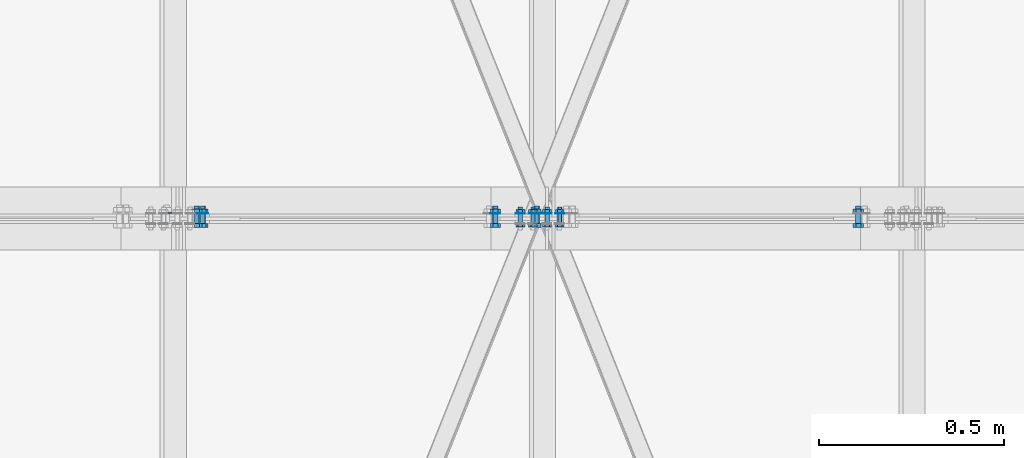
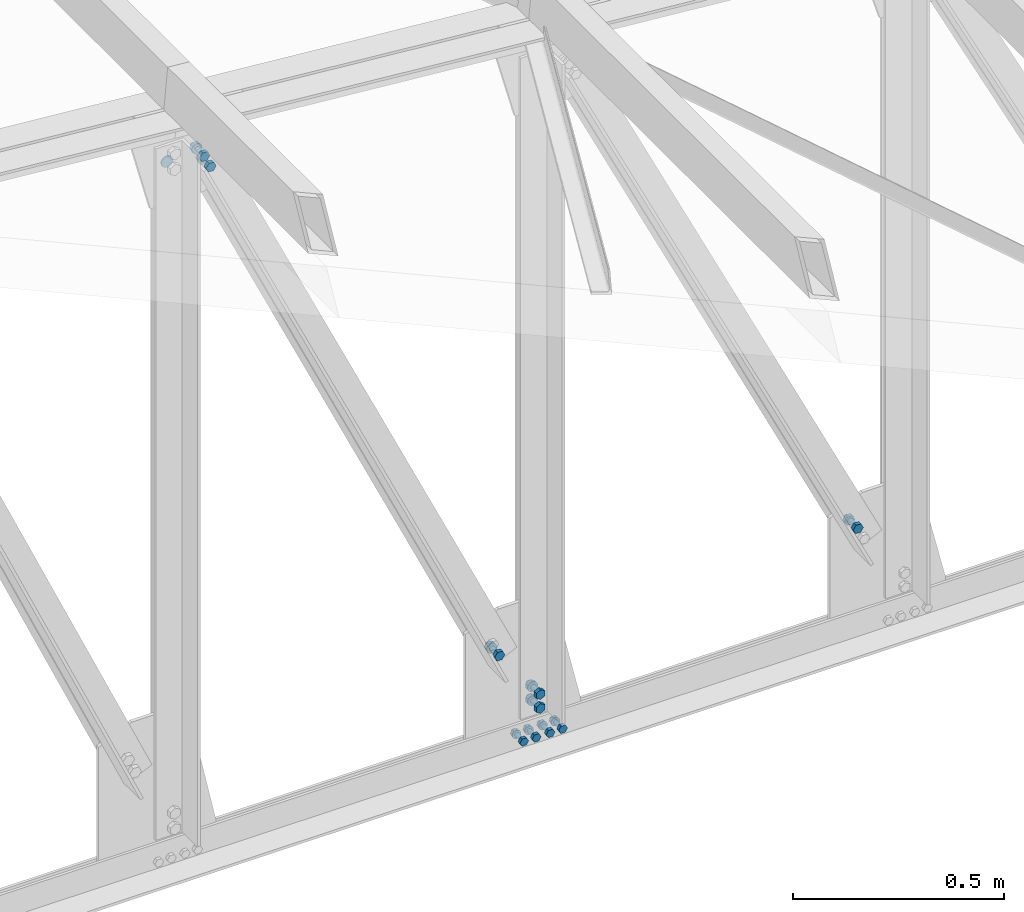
# One storey, part 76 of 251: 40 mechanical fasteners.
"""IFC4 building model written with IfcOpenShell, lengths in metres."""

from ifc_helpers import new_model, si_unit, frame, origin_with_axes, place, context, project, spatial, polyline, outline, extrude, type_object, element, save


model = new_model("IFC4")

# Units and contexts
model_context = context("Model", 3, precision=1e-05, world=origin_with_axes())
ifc_project = project(units=[si_unit("LENGTHUNIT", "METRE"), si_unit("AREAUNIT", "SQUARE_METRE"), si_unit("VOLUMEUNIT", "CUBIC_METRE"), si_unit("MASSUNIT", "GRAM", prefix="KILO"), si_unit("TIMEUNIT", "SECOND"), si_unit("PLANEANGLEUNIT", "RADIAN"), si_unit("SOLIDANGLEUNIT", "STERADIAN"), si_unit("THERMODYNAMICTEMPERATUREUNIT", "DEGREE_CELSIUS")], contexts=[model_context])

# Site, building, storey
placement_1 = place(None, origin_with_axes())
site = spatial("IfcSite", under=ifc_project, at=placement_1, Name="Italia", CompositionType="ELEMENT")
building = spatial("IfcBuilding", under=site, at=placement_1, Name="Deposito", CompositionType="ELEMENT")
storey = spatial("IfcBuildingStorey", under=building, at=placement_1, Name="Storey 0", CompositionType="ELEMENT", Elevation=0.0)

# Mechanical fasteners
mechanical_fastener_type_1 = type_object("IfcMechanicalFastenerType", Name="Reticolare 3", PredefinedType="BOLT")
placement_2 = place(placement_1, origin_with_axes())
mechanical_fastener_1_placement = place(placement_2, origin_with_axes())
element("IfcMechanicalFastener", 1, at=mechanical_fastener_1_placement, inside=storey, type_object=mechanical_fastener_type_1, Name="Reticolare 3", NominalDiameter=0.0119997, context=model_context, shape_type="SweptSolid", body=[
    extrude(outline(polyline([(0.0, 0.0), (-0.0120001, 0.0), (-0.0179996, 0.0103922), (-0.0120001, 0.0207844), (0.0, 0.0207844), (0.00600052, 0.0103922), (0.0, 0.0)])), frame((8.07066, 4.987, 4.99661), z_axis=(0.0, -1.0, 0.0), x_axis=(1.0, 0.0, 0.0)), (0.0, 0.0, 1.0), 0.00960016),
])
mechanical_fastener_type_2 = type_object("IfcMechanicalFastenerType", Name="Reticolare 3", PredefinedType="BOLT")
mechanical_fastener_2_placement = place(placement_2, origin_with_axes())
element("IfcMechanicalFastener", 2, at=mechanical_fastener_2_placement, inside=storey, type_object=mechanical_fastener_type_2, Name="Reticolare 3", NominalDiameter=0.012, context=model_context, shape_type="SweptSolid", body=[
    extrude(outline(polyline([(0.0, 0.0), (-0.000204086, -0.00155306), (-0.000802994, -0.00299978), (-0.00175667, -0.00424242), (-0.00299931, -0.00519609), (-0.00444698, -0.00579548), (-0.00599957, -0.00600004), (-0.00755215, -0.00579548), (-0.00899982, -0.00519609), (-0.0102425, -0.00424242), (-0.0111961, -0.00299978), (-0.011795, -0.00155306), (-0.0119991, 0.0), (-0.011795, 0.00155306), (-0.0111961, 0.00299978), (-0.0102425, 0.00424242), (-0.00899982, 0.00519609), (-0.00755215, 0.00579548), (-0.00599957, 0.00600004), (-0.00444698, 0.00579548), (-0.00299931, 0.00519609), (-0.00175667, 0.00424242), (-0.000802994, 0.00299978), (-0.000204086, 0.00155306), (0.0, 0.0)])), frame((8.07066, 5.031, 5.007), z_axis=(0.0, -1.0, 0.0), x_axis=(1.0, 0.0, 0.0)), (0.0, 0.0, 1.0), 0.0440001),
])
mechanical_fastener_type_3 = type_object("IfcMechanicalFastenerType", Name="Reticolare 3", PredefinedType="BOLT")
mechanical_fastener_3_placement = place(placement_2, origin_with_axes())
element("IfcMechanicalFastener", 3, at=mechanical_fastener_3_placement, inside=storey, type_object=mechanical_fastener_type_3, Name="Reticolare 3", NominalDiameter=0.0119997, context=model_context, shape_type="SweptSolid", body=[
    extrude(outline(polyline([(0.0, 0.0), (-0.0120001, 0.0), (-0.0179996, 0.0103922), (-0.0120001, 0.0207844), (0.0, 0.0207844), (0.00600052, 0.0103922), (0.0, 0.0)])), frame((8.07066, 5.0246, 4.99661), z_axis=(0.0, -1.0, 0.0), x_axis=(1.0, 0.0, 0.0)), (0.0, 0.0, 1.0), 0.00960016),
])
mechanical_fastener_type_4 = type_object("IfcMechanicalFastenerType", Name="Reticolare 3", PredefinedType="BOLT")
mechanical_fastener_4_placement = place(placement_2, origin_with_axes())
element("IfcMechanicalFastener", 4, at=mechanical_fastener_4_placement, inside=storey, type_object=mechanical_fastener_type_4, Name="Reticolare 3", NominalDiameter=0.024, context=model_context, shape_type="SweptSolid", body=[
    extrude(outline(polyline([(0.0, 0.0), (-0.000409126, -0.00310564), (-0.00160789, -0.00600004), (-0.00351524, -0.00848532), (-0.00600052, -0.0103922), (-0.00889397, -0.011591), (-0.0120001, -0.0120001), (-0.0151062, -0.011591), (-0.0179996, -0.0103922), (-0.0204849, -0.00848532), (-0.0223923, -0.00600004), (-0.023591, -0.00310564), (-0.0240002, 0.0), (-0.023591, 0.00310564), (-0.0223923, 0.00600004), (-0.0204849, 0.00848532), (-0.0179996, 0.0103922), (-0.0151062, 0.011591), (-0.0120001, 0.0120001), (-0.00889397, 0.011591), (-0.00600052, 0.0103922), (-0.00351524, 0.00848532), (-0.00160789, 0.00600004), (-0.000409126, 0.00310564), (0.0, 0.0)])), frame((8.07666, 5.015, 5.007), z_axis=(0.0, -1.0, 0.0), x_axis=(1.0, 0.0, 0.0)), (0.0, 0.0, 1.0), 0.00199986),
])
mechanical_fastener_type_5 = type_object("IfcMechanicalFastenerType", Name="Reticolare 3", PredefinedType="BOLT")
mechanical_fastener_5_placement = place(placement_2, origin_with_axes())
element("IfcMechanicalFastener", 5, at=mechanical_fastener_5_placement, inside=storey, type_object=mechanical_fastener_type_5, Name="Reticolare 3", NominalDiameter=0.0119997, context=model_context, shape_type="SweptSolid", body=[
    extrude(outline(polyline([(0.0, 0.0), (-0.0120001, 0.0), (-0.0179996, 0.0103922), (-0.0120001, 0.0207844), (0.0, 0.0207844), (0.00599957, 0.0103922), (0.0, 0.0)])), frame((8.10466, 4.987, 4.99661), z_axis=(0.0, -1.0, 0.0), x_axis=(1.0, 0.0, 0.0)), (0.0, 0.0, 1.0), 0.00960016),
])
mechanical_fastener_type_6 = type_object("IfcMechanicalFastenerType", Name="Reticolare 3", PredefinedType="BOLT")
mechanical_fastener_6_placement = place(placement_2, origin_with_axes())
element("IfcMechanicalFastener", 6, at=mechanical_fastener_6_placement, inside=storey, type_object=mechanical_fastener_type_6, Name="Reticolare 3", NominalDiameter=0.012, context=model_context, shape_type="SweptSolid", body=[
    extrude(outline(polyline([(0.0, 0.0), (-0.000204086, -0.00155306), (-0.000802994, -0.00299978), (-0.00175667, -0.00424242), (-0.00299931, -0.00519609), (-0.00444698, -0.00579548), (-0.00599957, -0.00600004), (-0.00755215, -0.00579548), (-0.00899982, -0.00519609), (-0.0102425, -0.00424242), (-0.0111961, -0.00299978), (-0.011795, -0.00155306), (-0.0119991, 0.0), (-0.011795, 0.00155306), (-0.0111961, 0.00299978), (-0.0102425, 0.00424242), (-0.00899982, 0.00519609), (-0.00755215, 0.00579548), (-0.00599957, 0.00600004), (-0.00444698, 0.00579548), (-0.00299931, 0.00519609), (-0.00175667, 0.00424242), (-0.000802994, 0.00299978), (-0.000204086, 0.00155306), (0.0, 0.0)])), frame((8.10466, 5.031, 5.007), z_axis=(0.0, -1.0, 0.0), x_axis=(1.0, 0.0, 0.0)), (0.0, 0.0, 1.0), 0.0440001),
])
mechanical_fastener_type_7 = type_object("IfcMechanicalFastenerType", Name="Reticolare 3", PredefinedType="BOLT")
mechanical_fastener_7_placement = place(placement_2, origin_with_axes())
element("IfcMechanicalFastener", 7, at=mechanical_fastener_7_placement, inside=storey, type_object=mechanical_fastener_type_7, Name="Reticolare 3", NominalDiameter=0.0119997, context=model_context, shape_type="SweptSolid", body=[
    extrude(outline(polyline([(0.0, 0.0), (-0.0120001, 0.0), (-0.0179996, 0.0103922), (-0.0120001, 0.0207844), (0.0, 0.0207844), (0.00599957, 0.0103922), (0.0, 0.0)])), frame((8.10466, 5.0246, 4.99661), z_axis=(0.0, -1.0, 0.0), x_axis=(1.0, 0.0, 0.0)), (0.0, 0.0, 1.0), 0.00960016),
])
mechanical_fastener_type_8 = type_object("IfcMechanicalFastenerType", Name="Reticolare 3", PredefinedType="BOLT")
mechanical_fastener_8_placement = place(placement_2, origin_with_axes())
element("IfcMechanicalFastener", 8, at=mechanical_fastener_8_placement, inside=storey, type_object=mechanical_fastener_type_8, Name="Reticolare 3", NominalDiameter=0.024, context=model_context, shape_type="SweptSolid", body=[
    extrude(outline(polyline([(0.0, 0.0), (-0.000409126, -0.00310564), (-0.00160789, -0.00600004), (-0.00351524, -0.00848532), (-0.00600052, -0.0103922), (-0.00889397, -0.011591), (-0.0120001, -0.0120001), (-0.0151062, -0.011591), (-0.0179996, -0.0103922), (-0.0204849, -0.00848532), (-0.0223923, -0.00600004), (-0.023591, -0.00310564), (-0.0240002, 0.0), (-0.023591, 0.00310564), (-0.0223923, 0.00600004), (-0.0204849, 0.00848532), (-0.0179996, 0.0103922), (-0.0151062, 0.011591), (-0.0120001, 0.0120001), (-0.00889397, 0.011591), (-0.00600052, 0.0103922), (-0.00351524, 0.00848532), (-0.00160789, 0.00600004), (-0.000409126, 0.00310564), (0.0, 0.0)])), frame((8.11066, 5.015, 5.007), z_axis=(0.0, -1.0, 0.0), x_axis=(1.0, 0.0, 0.0)), (0.0, 0.0, 1.0), 0.00199986),
])
mechanical_fastener_type_9 = type_object("IfcMechanicalFastenerType", Name="Reticolare 3", PredefinedType="BOLT")
mechanical_fastener_9_placement = place(placement_2, origin_with_axes())
element("IfcMechanicalFastener", 9, at=mechanical_fastener_9_placement, inside=storey, type_object=mechanical_fastener_type_9, Name="Reticolare 3", NominalDiameter=0.0119997, context=model_context, shape_type="SweptSolid", body=[
    extrude(outline(polyline([(0.0, 0.0), (-0.0120001, 0.0), (-0.0180006, 0.0103922), (-0.0120001, 0.0207844), (0.0, 0.0207844), (0.00599957, 0.0103922), (0.0, 0.0)])), frame((8.03266, 4.987, 4.99661), z_axis=(0.0, -1.0, 0.0), x_axis=(1.0, 0.0, 0.0)), (0.0, 0.0, 1.0), 0.00960016),
])
mechanical_fastener_type_10 = type_object("IfcMechanicalFastenerType", Name="Reticolare 3", PredefinedType="BOLT")
mechanical_fastener_10_placement = place(placement_2, origin_with_axes())
element("IfcMechanicalFastener", 10, at=mechanical_fastener_10_placement, inside=storey, type_object=mechanical_fastener_type_10, Name="Reticolare 3", NominalDiameter=0.012, context=model_context, shape_type="SweptSolid", body=[
    extrude(outline(polyline([(0.0, 0.0), (-0.000204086, -0.00155306), (-0.000802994, -0.00299978), (-0.00175667, -0.00424242), (-0.00299931, -0.00519609), (-0.00444698, -0.00579548), (-0.00599957, -0.00600004), (-0.00755215, -0.00579548), (-0.00899982, -0.00519609), (-0.0102425, -0.00424242), (-0.0111961, -0.00299978), (-0.011795, -0.00155306), (-0.0119991, 0.0), (-0.011795, 0.00155306), (-0.0111961, 0.00299978), (-0.0102425, 0.00424242), (-0.00899982, 0.00519609), (-0.00755215, 0.00579548), (-0.00599957, 0.00600004), (-0.00444698, 0.00579548), (-0.00299931, 0.00519609), (-0.00175667, 0.00424242), (-0.000802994, 0.00299978), (-0.000204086, 0.00155306), (0.0, 0.0)])), frame((8.03266, 5.031, 5.007), z_axis=(0.0, -1.0, 0.0), x_axis=(1.0, 0.0, 0.0)), (0.0, 0.0, 1.0), 0.0440001),
])
mechanical_fastener_type_11 = type_object("IfcMechanicalFastenerType", Name="Reticolare 3", PredefinedType="BOLT")
mechanical_fastener_11_placement = place(placement_2, origin_with_axes())
element("IfcMechanicalFastener", 11, at=mechanical_fastener_11_placement, inside=storey, type_object=mechanical_fastener_type_11, Name="Reticolare 3", NominalDiameter=0.0119997, context=model_context, shape_type="SweptSolid", body=[
    extrude(outline(polyline([(0.0, 0.0), (-0.0120001, 0.0), (-0.0180006, 0.0103922), (-0.0120001, 0.0207844), (0.0, 0.0207844), (0.00599957, 0.0103922), (0.0, 0.0)])), frame((8.03266, 5.0246, 4.99661), z_axis=(0.0, -1.0, 0.0), x_axis=(1.0, 0.0, 0.0)), (0.0, 0.0, 1.0), 0.00960016),
])
mechanical_fastener_type_12 = type_object("IfcMechanicalFastenerType", Name="Reticolare 3", PredefinedType="BOLT")
mechanical_fastener_12_placement = place(placement_2, origin_with_axes())
element("IfcMechanicalFastener", 12, at=mechanical_fastener_12_placement, inside=storey, type_object=mechanical_fastener_type_12, Name="Reticolare 3", NominalDiameter=0.024, context=model_context, shape_type="SweptSolid", body=[
    extrude(outline(polyline([(0.0, 0.0), (-0.000409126, -0.00310564), (-0.00160789, -0.00600004), (-0.00351524, -0.00848532), (-0.00600052, -0.0103922), (-0.00889397, -0.011591), (-0.0120001, -0.0120001), (-0.0151062, -0.011591), (-0.0179996, -0.0103922), (-0.0204849, -0.00848532), (-0.0223923, -0.00600004), (-0.023591, -0.00310564), (-0.0240002, 0.0), (-0.023591, 0.00310564), (-0.0223923, 0.00600004), (-0.0204849, 0.00848532), (-0.0179996, 0.0103922), (-0.0151062, 0.011591), (-0.0120001, 0.0120001), (-0.00889397, 0.011591), (-0.00600052, 0.0103922), (-0.00351524, 0.00848532), (-0.00160789, 0.00600004), (-0.000409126, 0.00310564), (0.0, 0.0)])), frame((8.03866, 5.015, 5.007), z_axis=(0.0, -1.0, 0.0), x_axis=(1.0, 0.0, 0.0)), (0.0, 0.0, 1.0), 0.00199986),
])
mechanical_fastener_type_13 = type_object("IfcMechanicalFastenerType", Name="Reticolare 3", PredefinedType="BOLT")
mechanical_fastener_13_placement = place(placement_2, origin_with_axes())
element("IfcMechanicalFastener", 13, at=mechanical_fastener_13_placement, inside=storey, type_object=mechanical_fastener_type_13, Name="Reticolare 3", NominalDiameter=0.0119997, context=model_context, shape_type="SweptSolid", body=[
    extrude(outline(polyline([(0.0, 0.0), (-0.0120001, 0.0), (-0.0180001, 0.0103922), (-0.0120001, 0.0207844), (0.0, 0.0207844), (0.00599957, 0.0103922), (0.0, 0.0)])), frame((7.99866, 4.987, 4.99661), z_axis=(0.0, -1.0, 0.0), x_axis=(1.0, 0.0, 0.0)), (0.0, 0.0, 1.0), 0.00960016),
])
mechanical_fastener_type_14 = type_object("IfcMechanicalFastenerType", Name="Reticolare 3", PredefinedType="BOLT")
mechanical_fastener_14_placement = place(placement_2, origin_with_axes())
element("IfcMechanicalFastener", 14, at=mechanical_fastener_14_placement, inside=storey, type_object=mechanical_fastener_type_14, Name="Reticolare 3", NominalDiameter=0.012, context=model_context, shape_type="SweptSolid", body=[
    extrude(outline(polyline([(0.0, 0.0), (-0.000204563, -0.00155306), (-0.000803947, -0.00299978), (-0.00175762, -0.00424242), (-0.00300026, -0.00519609), (-0.00444698, -0.00579548), (-0.00600004, -0.00600004), (-0.0075531, -0.00579548), (-0.00899982, -0.00519609), (-0.0102425, -0.00424242), (-0.0111961, -0.00299978), (-0.0117955, -0.00155306), (-0.0120001, 0.0), (-0.0117955, 0.00155306), (-0.0111961, 0.00299978), (-0.0102425, 0.00424242), (-0.00899982, 0.00519609), (-0.0075531, 0.00579548), (-0.00600004, 0.00600004), (-0.00444698, 0.00579548), (-0.00300026, 0.00519609), (-0.00175762, 0.00424242), (-0.000803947, 0.00299978), (-0.000204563, 0.00155306), (0.0, 0.0)])), frame((7.99866, 5.031, 5.007), z_axis=(0.0, -1.0, 0.0), x_axis=(1.0, 0.0, 0.0)), (0.0, 0.0, 1.0), 0.0440001),
])
mechanical_fastener_type_15 = type_object("IfcMechanicalFastenerType", Name="Reticolare 3", PredefinedType="BOLT")
mechanical_fastener_15_placement = place(placement_2, origin_with_axes())
element("IfcMechanicalFastener", 15, at=mechanical_fastener_15_placement, inside=storey, type_object=mechanical_fastener_type_15, Name="Reticolare 3", NominalDiameter=0.0119997, context=model_context, shape_type="SweptSolid", body=[
    extrude(outline(polyline([(0.0, 0.0), (-0.0120001, 0.0), (-0.0180001, 0.0103922), (-0.0120001, 0.0207844), (0.0, 0.0207844), (0.00599957, 0.0103922), (0.0, 0.0)])), frame((7.99866, 5.0246, 4.99661), z_axis=(0.0, -1.0, 0.0), x_axis=(1.0, 0.0, 0.0)), (0.0, 0.0, 1.0), 0.00960016),
])
mechanical_fastener_type_16 = type_object("IfcMechanicalFastenerType", Name="Reticolare 3", PredefinedType="BOLT")
mechanical_fastener_16_placement = place(placement_2, origin_with_axes())
element("IfcMechanicalFastener", 16, at=mechanical_fastener_16_placement, inside=storey, type_object=mechanical_fastener_type_16, Name="Reticolare 3", NominalDiameter=0.024, context=model_context, shape_type="SweptSolid", body=[
    extrude(outline(polyline([(0.0, 0.0), (-0.000409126, -0.00310564), (-0.00160789, -0.00600004), (-0.00351524, -0.00848532), (-0.00600004, -0.0103922), (-0.00889444, -0.011591), (-0.0120001, -0.0120001), (-0.0151057, -0.011591), (-0.0180001, -0.0103922), (-0.0204854, -0.00848532), (-0.0223923, -0.00600004), (-0.023591, -0.00310564), (-0.0240002, 0.0), (-0.023591, 0.00310564), (-0.0223923, 0.00600004), (-0.0204854, 0.00848532), (-0.0180001, 0.0103922), (-0.0151057, 0.011591), (-0.0120001, 0.0120001), (-0.00889444, 0.011591), (-0.00600004, 0.0103922), (-0.00351524, 0.00848532), (-0.00160789, 0.00600004), (-0.000409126, 0.00310564), (0.0, 0.0)])), frame((8.00466, 5.015, 5.007), z_axis=(0.0, -1.0, 0.0), x_axis=(1.0, 0.0, 0.0)), (0.0, 0.0, 1.0), 0.00199986),
])
mechanical_fastener_type_17 = type_object("IfcMechanicalFastenerType", Name="Reticolare 3", PredefinedType="BOLT")
mechanical_fastener_17_placement = place(placement_2, origin_with_axes())
element("IfcMechanicalFastener", 17, at=mechanical_fastener_17_placement, inside=storey, type_object=mechanical_fastener_type_17, Name="Reticolare 3", NominalDiameter=0.0139997, context=model_context, shape_type="SweptSolid", body=[
    extrude(outline(polyline([(0.0, 0.0), (0.0, -0.0139999), (-0.0121241, -0.0209999), (-0.0242481, -0.0139999), (-0.0242481, 0.0), (-0.0121241, 0.00699997), (0.0, 0.0)])), frame((8.04879, 4.987, 5.09653), z_axis=(0.0, -1.0, 0.0), x_axis=(1.0, 0.0, 0.0)), (0.0, 0.0, 1.0), 0.0112),
])
mechanical_fastener_type_18 = type_object("IfcMechanicalFastenerType", Name="Reticolare 3", PredefinedType="BOLT")
mechanical_fastener_18_placement = place(placement_2, origin_with_axes())
element("IfcMechanicalFastener", 18, at=mechanical_fastener_18_placement, inside=storey, type_object=mechanical_fastener_type_18, Name="Reticolare 3", NominalDiameter=0.014, context=model_context, shape_type="SweptSolid", body=[
    extrude(outline(polyline([(0.0, 0.0), (-0.000238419, -0.0018115), (-0.000937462, -0.00349998), (-0.0020504, -0.00494957), (-0.00349998, -0.00606203), (-0.00518799, -0.00676155), (-0.00699997, -0.00699997), (-0.00881195, -0.00676155), (-0.0105, -0.00606203), (-0.0119495, -0.00494957), (-0.0130625, -0.00349998), (-0.0137615, -0.0018115), (-0.0139999, 0.0), (-0.0137615, 0.0018115), (-0.0130625, 0.00349998), (-0.0119495, 0.00494957), (-0.0105, 0.00606203), (-0.00881195, 0.00676155), (-0.00699997, 0.00699997), (-0.00518799, 0.00676155), (-0.00349998, 0.00606203), (-0.0020504, 0.00494957), (-0.000937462, 0.00349998), (-0.000238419, 0.0018115), (0.0, 0.0)])), frame((8.04366, 5.034, 5.08953), z_axis=(0.0, -1.0, 0.0), x_axis=(1.0, 0.0, 0.0)), (0.0, 0.0, 1.0), 0.0469999),
])
mechanical_fastener_type_19 = type_object("IfcMechanicalFastenerType", Name="Reticolare 3", PredefinedType="BOLT")
mechanical_fastener_19_placement = place(placement_2, origin_with_axes())
element("IfcMechanicalFastener", 19, at=mechanical_fastener_19_placement, inside=storey, type_object=mechanical_fastener_type_19, Name="Reticolare 3", NominalDiameter=0.0139997, context=model_context, shape_type="SweptSolid", body=[
    extrude(outline(polyline([(0.0, 0.0), (0.0, -0.0139999), (-0.0121241, -0.0209999), (-0.0242481, -0.0139999), (-0.0242481, 0.0), (-0.0121241, 0.00699997), (0.0, 0.0)])), frame((8.04879, 5.0262, 5.09653), z_axis=(0.0, -1.0, 0.0), x_axis=(1.0, 0.0, 0.0)), (0.0, 0.0, 1.0), 0.0112),
])
mechanical_fastener_type_20 = type_object("IfcMechanicalFastenerType", Name="Reticolare 3", PredefinedType="BOLT")
mechanical_fastener_20_placement = place(placement_2, origin_with_axes())
element("IfcMechanicalFastener", 20, at=mechanical_fastener_20_placement, inside=storey, type_object=mechanical_fastener_type_20, Name="Reticolare 3", NominalDiameter=0.028, context=model_context, shape_type="SweptSolid", body=[
    extrude(outline(polyline([(0.0, 0.0), (-0.000476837, -0.00362349), (-0.00187588, -0.00699997), (-0.0041008, -0.00989962), (-0.00699997, -0.0121245), (-0.0103769, -0.0135231), (-0.0139999, -0.0139999), (-0.0176229, -0.0135231), (-0.0209999, -0.0121245), (-0.0238991, -0.00989962), (-0.026124, -0.00699997), (-0.027523, -0.00362349), (-0.0279999, 0.0), (-0.027523, 0.00362349), (-0.026124, 0.00699997), (-0.0238991, 0.00989962), (-0.0209999, 0.0121245), (-0.0176229, 0.0135231), (-0.0139999, 0.0139999), (-0.0103769, 0.0135231), (-0.00699997, 0.0121245), (-0.0041008, 0.00989962), (-0.00187588, 0.00699997), (-0.000476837, 0.00362349), (0.0, 0.0)])), frame((8.05066, 5.015, 5.08953), z_axis=(0.0, -1.0, 0.0), x_axis=(1.0, 0.0, 0.0)), (0.0, 0.0, 1.0), 0.00199986),
])
mechanical_fastener_type_21 = type_object("IfcMechanicalFastenerType", Name="Reticolare 3", PredefinedType="BOLT")
mechanical_fastener_21_placement = place(placement_2, origin_with_axes())
element("IfcMechanicalFastener", 21, at=mechanical_fastener_21_placement, inside=storey, type_object=mechanical_fastener_type_21, Name="Reticolare 3", NominalDiameter=0.0139997, context=model_context, shape_type="SweptSolid", body=[
    extrude(outline(polyline([(0.0, 0.0), (0.0, -0.0139999), (-0.0121241, -0.0209999), (-0.0242481, -0.0139999), (-0.0242481, 0.0), (-0.0121241, 0.00700045), (0.0, 0.0)])), frame((8.04879, 4.987, 5.13653), z_axis=(0.0, -1.0, 0.0), x_axis=(1.0, 0.0, 0.0)), (0.0, 0.0, 1.0), 0.0112),
])
mechanical_fastener_type_22 = type_object("IfcMechanicalFastenerType", Name="Reticolare 3", PredefinedType="BOLT")
mechanical_fastener_22_placement = place(placement_2, origin_with_axes())
element("IfcMechanicalFastener", 22, at=mechanical_fastener_22_placement, inside=storey, type_object=mechanical_fastener_type_22, Name="Reticolare 3", NominalDiameter=0.014, context=model_context, shape_type="SweptSolid", body=[
    extrude(outline(polyline([(0.0, 0.0), (-0.000238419, -0.0018115), (-0.000937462, -0.00349998), (-0.0020504, -0.00494957), (-0.00349998, -0.00606203), (-0.00518799, -0.00676155), (-0.00699997, -0.00699997), (-0.00881195, -0.00676155), (-0.0105, -0.00606203), (-0.0119495, -0.00494957), (-0.0130625, -0.00349998), (-0.0137615, -0.0018115), (-0.0139999, 0.0), (-0.0137615, 0.0018115), (-0.0130625, 0.00349998), (-0.0119495, 0.00494957), (-0.0105, 0.00606203), (-0.00881195, 0.00676155), (-0.00699997, 0.00699997), (-0.00518799, 0.00676155), (-0.00349998, 0.00606203), (-0.0020504, 0.00494957), (-0.000937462, 0.00349998), (-0.000238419, 0.0018115), (0.0, 0.0)])), frame((8.04366, 5.034, 5.12953), z_axis=(0.0, -1.0, 0.0), x_axis=(1.0, 0.0, 0.0)), (0.0, 0.0, 1.0), 0.0469999),
])
mechanical_fastener_type_23 = type_object("IfcMechanicalFastenerType", Name="Reticolare 3", PredefinedType="BOLT")
mechanical_fastener_23_placement = place(placement_2, origin_with_axes())
element("IfcMechanicalFastener", 23, at=mechanical_fastener_23_placement, inside=storey, type_object=mechanical_fastener_type_23, Name="Reticolare 3", NominalDiameter=0.0139997, context=model_context, shape_type="SweptSolid", body=[
    extrude(outline(polyline([(0.0, 0.0), (0.0, -0.0139999), (-0.0121241, -0.0209999), (-0.0242481, -0.0139999), (-0.0242481, 0.0), (-0.0121241, 0.00700045), (0.0, 0.0)])), frame((8.04879, 5.0262, 5.13653), z_axis=(0.0, -1.0, 0.0), x_axis=(1.0, 0.0, 0.0)), (0.0, 0.0, 1.0), 0.0112),
])
mechanical_fastener_type_24 = type_object("IfcMechanicalFastenerType", Name="Reticolare 3", PredefinedType="BOLT")
mechanical_fastener_24_placement = place(placement_2, origin_with_axes())
element("IfcMechanicalFastener", 24, at=mechanical_fastener_24_placement, inside=storey, type_object=mechanical_fastener_type_24, Name="Reticolare 3", NominalDiameter=0.028, context=model_context, shape_type="SweptSolid", body=[
    extrude(outline(polyline([(0.0, 0.0), (-0.000476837, -0.00362349), (-0.00187588, -0.00699997), (-0.0041008, -0.00989962), (-0.00699997, -0.0121245), (-0.0103769, -0.0135231), (-0.0139999, -0.0139999), (-0.0176229, -0.0135231), (-0.0209999, -0.0121245), (-0.0238991, -0.00989962), (-0.026124, -0.00699997), (-0.027523, -0.00362349), (-0.0279999, 0.0), (-0.027523, 0.00362349), (-0.026124, 0.00699997), (-0.0238991, 0.00989962), (-0.0209999, 0.0121245), (-0.0176229, 0.0135231), (-0.0139999, 0.0139999), (-0.0103769, 0.0135231), (-0.00699997, 0.0121245), (-0.0041008, 0.00989962), (-0.00187588, 0.00699997), (-0.000476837, 0.00362349), (0.0, 0.0)])), frame((8.05066, 5.015, 5.12953), z_axis=(0.0, -1.0, 0.0), x_axis=(1.0, 0.0, 0.0)), (0.0, 0.0, 1.0), 0.00199986),
])
mechanical_fastener_type_25 = type_object("IfcMechanicalFastenerType", Name="Reticolare 3", PredefinedType="BOLT")
mechanical_fastener_25_placement = place(placement_2, origin_with_axes())
element("IfcMechanicalFastener", 25, at=mechanical_fastener_25_placement, inside=storey, type_object=mechanical_fastener_type_25, Name="Reticolare 3", NominalDiameter=0.0139998, context=model_context, shape_type="SweptSolid", body=[
    extrude(outline(polyline([(0.0, 0.0), (-0.00592422, 0.0126848), (0.00209904, 0.024158), (0.0160465, 0.0229459), (0.0219707, 0.0102611), (0.0139475, -0.00121164), (0.0, 0.0)])), frame((7.91687, 4.987, 5.26839), z_axis=(0.0, -1.0, 0.0), x_axis=(1.0, 0.0, 0.0)), (0.0, 0.0, 1.0), 0.0112),
])
mechanical_fastener_type_26 = type_object("IfcMechanicalFastenerType", Name="Reticolare 3", PredefinedType="BOLT")
mechanical_fastener_26_placement = place(placement_2, origin_with_axes())
element("IfcMechanicalFastener", 26, at=mechanical_fastener_26_placement, inside=storey, type_object=mechanical_fastener_type_26, Name="Reticolare 3", NominalDiameter=0.014, context=model_context, shape_type="SweptSolid", body=[
    extrude(outline(polyline([(0.0, 0.0), (-0.000238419, -0.0018115), (-0.000937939, -0.00349998), (-0.0020504, -0.00494957), (-0.00349998, -0.00606203), (-0.00518847, -0.00676155), (-0.00699997, -0.00699997), (-0.00881147, -0.00676155), (-0.0105, -0.00606203), (-0.0119495, -0.00494957), (-0.013062, -0.00349998), (-0.0137615, -0.0018115), (-0.0139999, 0.0), (-0.0137615, 0.0018115), (-0.013062, 0.00349998), (-0.0119495, 0.00494957), (-0.0105, 0.00606203), (-0.00881147, 0.00676155), (-0.00699997, 0.00699997), (-0.00518847, 0.00676155), (-0.00349998, 0.00606203), (-0.0020504, 0.00494957), (-0.000937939, 0.00349998), (-0.000238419, 0.0018115), (0.0, 0.0)])), frame((7.93189, 5.034, 5.27986), z_axis=(0.0, -1.0, 0.0), x_axis=(1.0, 0.0, 0.0)), (0.0, 0.0, 1.0), 0.0469999),
])
mechanical_fastener_type_27 = type_object("IfcMechanicalFastenerType", Name="Reticolare 3", PredefinedType="BOLT")
mechanical_fastener_27_placement = place(placement_2, origin_with_axes())
element("IfcMechanicalFastener", 27, at=mechanical_fastener_27_placement, inside=storey, type_object=mechanical_fastener_type_27, Name="Reticolare 3", NominalDiameter=0.0139998, context=model_context, shape_type="SweptSolid", body=[
    extrude(outline(polyline([(0.0, 0.0), (-0.00592422, 0.0126848), (0.00209904, 0.024158), (0.0160465, 0.0229459), (0.0219707, 0.0102611), (0.0139475, -0.00121164), (0.0, 0.0)])), frame((7.91687, 5.0262, 5.26839), z_axis=(0.0, -1.0, 0.0), x_axis=(1.0, 0.0, 0.0)), (0.0, 0.0, 1.0), 0.0112),
])
mechanical_fastener_type_28 = type_object("IfcMechanicalFastenerType", Name="Reticolare 3", PredefinedType="BOLT")
mechanical_fastener_28_placement = place(placement_2, origin_with_axes())
element("IfcMechanicalFastener", 28, at=mechanical_fastener_28_placement, inside=storey, type_object=mechanical_fastener_type_28, Name="Reticolare 3", NominalDiameter=0.028, context=model_context, shape_type="SweptSolid", body=[
    extrude(outline(polyline([(0.0, 0.0), (-0.000476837, -0.00362349), (-0.0018754, -0.00699997), (-0.00410032, -0.00989962), (-0.00699997, -0.0121245), (-0.0103765, -0.0135231), (-0.0139999, -0.0139999), (-0.0176234, -0.0135231), (-0.0209999, -0.0121245), (-0.0238996, -0.00989962), (-0.0261245, -0.00699997), (-0.027523, -0.00362349), (-0.0279999, 0.0), (-0.027523, 0.00362349), (-0.0261245, 0.00699997), (-0.0238996, 0.00989962), (-0.0209999, 0.0121245), (-0.0176234, 0.0135231), (-0.0139999, 0.0139999), (-0.0103765, 0.0135231), (-0.00699997, 0.0121245), (-0.00410032, 0.00989962), (-0.0018754, 0.00699997), (-0.000476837, 0.00362349), (0.0, 0.0)])), frame((7.93889, 5.015, 5.27986), z_axis=(0.0, -1.0, 0.0), x_axis=(1.0, 0.0, 0.0)), (0.0, 0.0, 1.0), 0.00199986),
])
mechanical_fastener_type_29 = type_object("IfcMechanicalFastenerType", Name="Reticolare 3", PredefinedType="BOLT")
mechanical_fastener_29_placement = place(placement_2, origin_with_axes())
element("IfcMechanicalFastener", 29, at=mechanical_fastener_29_placement, inside=storey, type_object=mechanical_fastener_type_29, Name="Reticolare 3", NominalDiameter=0.0139994, context=model_context, shape_type="SweptSolid", body=[
    extrude(outline(polyline([(0.0, 0.0), (-0.00612926, 0.0125871), (0.00170708, 0.0241885), (0.0156717, 0.0232029), (0.021801, 0.0106158), (0.0139647, -0.000985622), (0.0, 0.0)])), frame((8.89576, 4.987, 5.29291), z_axis=(0.0, -1.0, 0.0), x_axis=(1.0, 0.0, 0.0)), (0.0, 0.0, 1.0), 0.0112),
])
mechanical_fastener_type_30 = type_object("IfcMechanicalFastenerType", Name="Reticolare 3", PredefinedType="BOLT")
mechanical_fastener_30_placement = place(placement_2, origin_with_axes())
element("IfcMechanicalFastener", 30, at=mechanical_fastener_30_placement, inside=storey, type_object=mechanical_fastener_type_30, Name="Reticolare 3", NominalDiameter=0.014, context=model_context, shape_type="SweptSolid", body=[
    extrude(outline(polyline([(0.0, 0.0), (-0.000238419, -0.0018115), (-0.000937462, -0.00349998), (-0.0020504, -0.00494957), (-0.00349998, -0.00606203), (-0.00518799, -0.00676155), (-0.00699997, -0.00699997), (-0.00881195, -0.00676155), (-0.0105, -0.00606203), (-0.0119495, -0.00494957), (-0.0130625, -0.00349998), (-0.0137615, -0.0018115), (-0.0139999, 0.0), (-0.0137615, 0.0018115), (-0.0130625, 0.00349998), (-0.0119495, 0.00494957), (-0.0105, 0.00606203), (-0.00881195, 0.00676155), (-0.00699997, 0.00699997), (-0.00518799, 0.00676155), (-0.00349998, 0.00606203), (-0.0020504, 0.00494957), (-0.000937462, 0.00349998), (-0.000238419, 0.0018115), (0.0, 0.0)])), frame((8.91059, 5.034, 5.30451), z_axis=(0.0, -1.0, 0.0), x_axis=(1.0, 0.0, 0.0)), (0.0, 0.0, 1.0), 0.0469999),
])
mechanical_fastener_type_31 = type_object("IfcMechanicalFastenerType", Name="Reticolare 3", PredefinedType="BOLT")
mechanical_fastener_31_placement = place(placement_2, origin_with_axes())
element("IfcMechanicalFastener", 31, at=mechanical_fastener_31_placement, inside=storey, type_object=mechanical_fastener_type_31, Name="Reticolare 3", NominalDiameter=0.0139994, context=model_context, shape_type="SweptSolid", body=[
    extrude(outline(polyline([(0.0, 0.0), (-0.00612926, 0.0125871), (0.00170708, 0.0241885), (0.0156717, 0.0232029), (0.021801, 0.0106158), (0.0139647, -0.000985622), (0.0, 0.0)])), frame((8.89576, 5.0262, 5.29291), z_axis=(0.0, -1.0, 0.0), x_axis=(1.0, 0.0, 0.0)), (0.0, 0.0, 1.0), 0.0112),
])
mechanical_fastener_type_32 = type_object("IfcMechanicalFastenerType", Name="Reticolare 3", PredefinedType="BOLT")
mechanical_fastener_32_placement = place(placement_2, origin_with_axes())
element("IfcMechanicalFastener", 32, at=mechanical_fastener_32_placement, inside=storey, type_object=mechanical_fastener_type_32, Name="Reticolare 3", NominalDiameter=0.032, context=model_context, shape_type="SweptSolid", body=[
    extrude(outline(polyline([(0.0, 0.0), (-0.000545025, -0.00414133), (-0.00214338, -0.0079999), (-0.00468588, -0.0113139), (-0.0079999, -0.0138564), (-0.0118585, -0.0154548), (-0.0159998, -0.0159998), (-0.0201411, -0.0154548), (-0.0239997, -0.0138564), (-0.0273137, -0.0113139), (-0.0298562, -0.0079999), (-0.0314546, -0.00414133), (-0.0319996, 0.0), (-0.0314546, 0.00414133), (-0.0298562, 0.0079999), (-0.0273137, 0.0113139), (-0.0239997, 0.0138564), (-0.0201411, 0.0154548), (-0.0159998, 0.0159998), (-0.0118585, 0.0154548), (-0.0079999, 0.0138564), (-0.00468588, 0.0113139), (-0.00214338, 0.0079999), (-0.000545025, 0.00414133), (0.0, 0.0)])), frame((7.05447, 5.017, 6.99426), z_axis=(0.0, -1.0, 0.0), x_axis=(1.0, 0.0, 0.0)), (0.0, 0.0, 1.0), 0.00400019),
])
mechanical_fastener_type_33 = type_object("IfcMechanicalFastenerType", Name="Reticolare 3", PredefinedType="BOLT")
mechanical_fastener_33_placement = place(placement_2, origin_with_axes())
element("IfcMechanicalFastener", 33, at=mechanical_fastener_33_placement, inside=storey, type_object=mechanical_fastener_type_33, Name="Reticolare 3", NominalDiameter=0.0139998, context=model_context, shape_type="SweptSolid", body=[
    extrude(outline(polyline([(0.0, 0.0), (-0.00592422, 0.0126848), (0.00209904, 0.024158), (0.0160465, 0.0229459), (0.0219707, 0.0102611), (0.0139475, -0.00121164), (0.0, 0.0)])), frame((7.11188, 4.987, 6.99201), z_axis=(0.0, -1.0, 0.0), x_axis=(1.0, 0.0, 0.0)), (0.0, 0.0, 1.0), 0.0112),
])
mechanical_fastener_type_34 = type_object("IfcMechanicalFastenerType", Name="Reticolare 3", PredefinedType="BOLT")
mechanical_fastener_34_placement = place(placement_2, origin_with_axes())
element("IfcMechanicalFastener", 34, at=mechanical_fastener_34_placement, inside=storey, type_object=mechanical_fastener_type_34, Name="Reticolare 3", NominalDiameter=0.014, context=model_context, shape_type="SweptSolid", body=[
    extrude(outline(polyline([(0.0, 0.0), (-0.000238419, -0.0018115), (-0.000937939, -0.00349998), (-0.0020504, -0.00494957), (-0.00349998, -0.00606203), (-0.00518847, -0.00676155), (-0.00699997, -0.00699997), (-0.00881147, -0.00676155), (-0.0105, -0.00606203), (-0.0119495, -0.00494957), (-0.013062, -0.00349998), (-0.0137615, -0.0018115), (-0.0139999, 0.0), (-0.0137615, 0.0018115), (-0.013062, 0.00349998), (-0.0119495, 0.00494957), (-0.0105, 0.00606203), (-0.00881147, 0.00676155), (-0.00699997, 0.00699997), (-0.00518847, 0.00676155), (-0.00349998, 0.00606203), (-0.0020504, 0.00494957), (-0.000937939, 0.00349998), (-0.000238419, 0.0018115), (0.0, 0.0)])), frame((7.1269, 5.034, 7.00349), z_axis=(0.0, -1.0, 0.0), x_axis=(1.0, 0.0, 0.0)), (0.0, 0.0, 1.0), 0.0469999),
])
mechanical_fastener_type_35 = type_object("IfcMechanicalFastenerType", Name="Reticolare 3", PredefinedType="BOLT")
mechanical_fastener_35_placement = place(placement_2, origin_with_axes())
element("IfcMechanicalFastener", 35, at=mechanical_fastener_35_placement, inside=storey, type_object=mechanical_fastener_type_35, Name="Reticolare 3", NominalDiameter=0.0139998, context=model_context, shape_type="SweptSolid", body=[
    extrude(outline(polyline([(0.0, 0.0), (-0.00592422, 0.0126848), (0.00209904, 0.024158), (0.0160465, 0.0229459), (0.0219707, 0.0102611), (0.0139475, -0.00121164), (0.0, 0.0)])), frame((7.11188, 5.0262, 6.99201), z_axis=(0.0, -1.0, 0.0), x_axis=(1.0, 0.0, 0.0)), (0.0, 0.0, 1.0), 0.0112),
])
mechanical_fastener_type_36 = type_object("IfcMechanicalFastenerType", Name="Reticolare 3", PredefinedType="BOLT")
mechanical_fastener_36_placement = place(placement_2, origin_with_axes())
element("IfcMechanicalFastener", 36, at=mechanical_fastener_36_placement, inside=storey, type_object=mechanical_fastener_type_36, Name="Reticolare 3", NominalDiameter=0.028, context=model_context, shape_type="SweptSolid", body=[
    extrude(outline(polyline([(0.0, 0.0), (-0.000476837, -0.00362349), (-0.0018754, -0.00699997), (-0.00410032, -0.00989962), (-0.00699997, -0.0121245), (-0.0103765, -0.0135231), (-0.0139999, -0.0139999), (-0.0176234, -0.0135231), (-0.0209999, -0.0121245), (-0.0238996, -0.00989962), (-0.0261245, -0.00699997), (-0.027523, -0.00362349), (-0.0279999, 0.0), (-0.027523, 0.00362349), (-0.0261245, 0.00699997), (-0.0238996, 0.00989962), (-0.0209999, 0.0121245), (-0.0176234, 0.0135231), (-0.0139999, 0.0139999), (-0.0103765, 0.0135231), (-0.00699997, 0.0121245), (-0.00410032, 0.00989962), (-0.0018754, 0.00699997), (-0.000476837, 0.00362349), (0.0, 0.0)])), frame((7.1339, 5.015, 7.00349), z_axis=(0.0, -1.0, 0.0), x_axis=(1.0, 0.0, 0.0)), (0.0, 0.0, 1.0), 0.00199986),
])
mechanical_fastener_type_37 = type_object("IfcMechanicalFastenerType", Name="Reticolare 3", PredefinedType="BOLT")
mechanical_fastener_37_placement = place(placement_2, origin_with_axes())
element("IfcMechanicalFastener", 37, at=mechanical_fastener_37_placement, inside=storey, type_object=mechanical_fastener_type_37, Name="Reticolare 3", NominalDiameter=0.0139998, context=model_context, shape_type="SweptSolid", body=[
    extrude(outline(polyline([(0.0, 0.0), (-0.00592422, 0.0126848), (0.00209904, 0.0241575), (0.0160465, 0.0229459), (0.0219707, 0.0102611), (0.0139475, -0.00121212), (0.0, 0.0)])), frame((7.1288, 4.987, 6.95577), z_axis=(0.0, -1.0, 0.0), x_axis=(1.0, 0.0, 0.0)), (0.0, 0.0, 1.0), 0.0112),
])
mechanical_fastener_type_38 = type_object("IfcMechanicalFastenerType", Name="Reticolare 3", PredefinedType="BOLT")
mechanical_fastener_38_placement = place(placement_2, origin_with_axes())
element("IfcMechanicalFastener", 38, at=mechanical_fastener_38_placement, inside=storey, type_object=mechanical_fastener_type_38, Name="Reticolare 3", NominalDiameter=0.014, context=model_context, shape_type="SweptSolid", body=[
    extrude(outline(polyline([(0.0, 0.0), (-0.000238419, -0.0018115), (-0.000937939, -0.00349998), (-0.0020504, -0.00494957), (-0.00349998, -0.00606203), (-0.00518847, -0.00676155), (-0.00699997, -0.00699997), (-0.00881147, -0.00676155), (-0.0105, -0.00606203), (-0.0119495, -0.00494957), (-0.013062, -0.00349998), (-0.0137615, -0.0018115), (-0.0139999, 0.0), (-0.0137615, 0.0018115), (-0.013062, 0.00349998), (-0.0119495, 0.00494957), (-0.0105, 0.00606203), (-0.00881147, 0.00676155), (-0.00699997, 0.00699997), (-0.00518847, 0.00676155), (-0.00349998, 0.00606203), (-0.0020504, 0.00494957), (-0.000937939, 0.00349998), (-0.000238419, 0.0018115), (0.0, 0.0)])), frame((7.14383, 5.034, 6.96725), z_axis=(0.0, -1.0, 0.0), x_axis=(1.0, 0.0, 0.0)), (0.0, 0.0, 1.0), 0.0469999),
])
mechanical_fastener_type_39 = type_object("IfcMechanicalFastenerType", Name="Reticolare 3", PredefinedType="BOLT")
mechanical_fastener_39_placement = place(placement_2, origin_with_axes())
element("IfcMechanicalFastener", 39, at=mechanical_fastener_39_placement, inside=storey, type_object=mechanical_fastener_type_39, Name="Reticolare 3", NominalDiameter=0.0139998, context=model_context, shape_type="SweptSolid", body=[
    extrude(outline(polyline([(0.0, 0.0), (-0.00592422, 0.0126848), (0.00209904, 0.0241575), (0.0160465, 0.0229459), (0.0219707, 0.0102611), (0.0139475, -0.00121212), (0.0, 0.0)])), frame((7.1288, 5.0262, 6.95577), z_axis=(0.0, -1.0, 0.0), x_axis=(1.0, 0.0, 0.0)), (0.0, 0.0, 1.0), 0.0112),
])
mechanical_fastener_type_40 = type_object("IfcMechanicalFastenerType", Name="Reticolare 3", PredefinedType="BOLT")
mechanical_fastener_40_placement = place(placement_2, origin_with_axes())
element("IfcMechanicalFastener", 40, at=mechanical_fastener_40_placement, inside=storey, type_object=mechanical_fastener_type_40, Name="Reticolare 3", NominalDiameter=0.028, context=model_context, shape_type="SweptSolid", body=[
    extrude(outline(polyline([(0.0, 0.0), (-0.000476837, -0.00362349), (-0.0018754, -0.00699997), (-0.00410032, -0.00989962), (-0.00699997, -0.0121245), (-0.0103765, -0.0135231), (-0.0139999, -0.0139999), (-0.0176234, -0.0135231), (-0.0209999, -0.0121245), (-0.0238996, -0.00989962), (-0.0261245, -0.00699997), (-0.027523, -0.00362349), (-0.0279999, 0.0), (-0.027523, 0.00362349), (-0.0261245, 0.00699997), (-0.0238996, 0.00989962), (-0.0209999, 0.0121245), (-0.0176234, 0.0135231), (-0.0139999, 0.0139999), (-0.0103765, 0.0135231), (-0.00699997, 0.0121245), (-0.00410032, 0.00989962), (-0.0018754, 0.00699997), (-0.000476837, 0.00362349), (0.0, 0.0)])), frame((7.15083, 5.015, 6.96725), z_axis=(0.0, -1.0, 0.0), x_axis=(1.0, 0.0, 0.0)), (0.0, 0.0, 1.0), 0.00199986),
])

save(model, "model.ifc")
